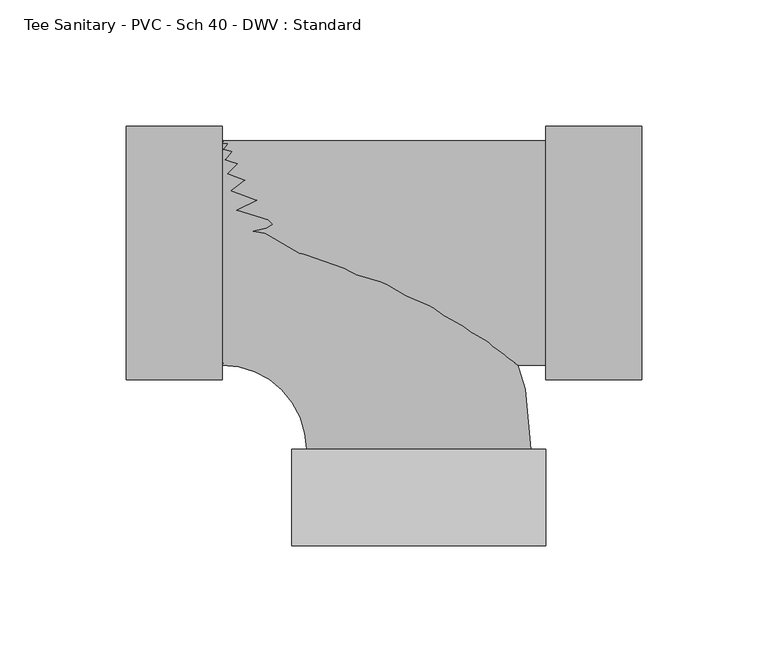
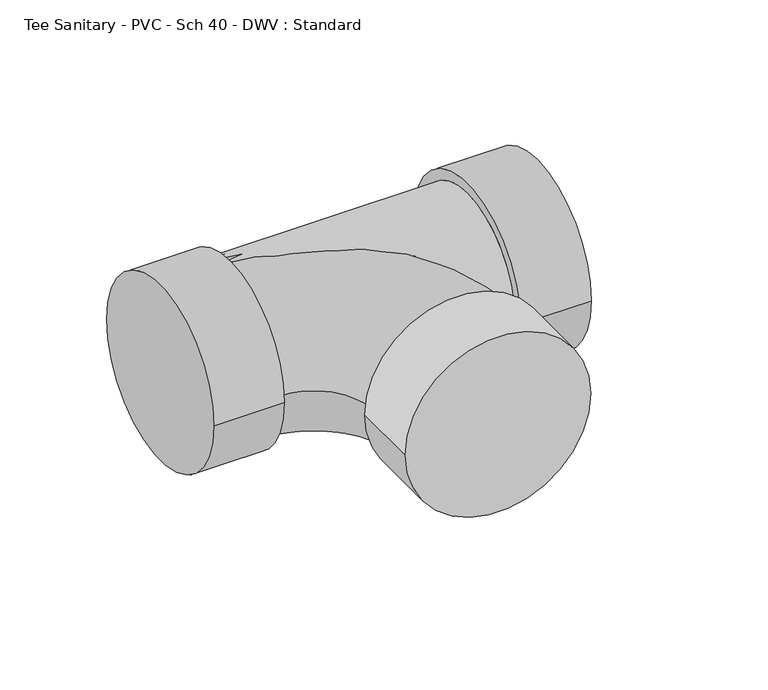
"""IFC4 building model written with IfcOpenShell, lengths in millimetres: pipe fitting geometry, Tee Sanitary - PVC - Sch 40 - DWV : Standard."""

import ifcopenshell
import ifcopenshell.guid

model = None  # the IFC model being written
_history = None  # IfcOwnerHistory: only IFC2X3 demands one
_inside = {}  # id of a spatial element -> (the spatial element, [elements in it])
_under = {}  # id of a project, library or spatial element -> (it, [spatial elements below it])
_declared = {}  # id of a project -> (the project, [libraries it declares])
_typed = {}  # id of a type object -> (the type object, [elements of that type])
_made_of = {}  # id of a material, layer set ... -> (it, [elements and type objects made of it])


def new_model(schema):
    """Start an empty IFC model of exactly this schema.

    Asked for "IFC4X3", IfcOpenShell would pick the latest addendum, in which some entities
    have other attributes; the version numbers below select the first issue.
    IFC2X3 requires an IfcOwnerHistory on every rooted entity: one is made here for all.
    """
    global model, _history
    if schema == "IFC4X3":
        model = ifcopenshell.file(schema_version=(4, 3, 0, 0))
    else:
        model = ifcopenshell.file(schema=schema)
    _inside.clear()
    _under.clear()
    _declared.clear()
    _typed.clear()
    _made_of.clear()
    _history = None
    if model.schema == "IFC2X3":
        org = make("IfcOrganization", Name="unknown")
        user = make(
            "IfcPersonAndOrganization",
            ThePerson=make("IfcPerson", FamilyName="unknown"),
            TheOrganization=org,
        )
        app = make(
            "IfcApplication",
            ApplicationDeveloper=org,
            Version="unknown",
            ApplicationFullName="unknown",
            ApplicationIdentifier="unknown",
        )
        _history = make(
            "IfcOwnerHistory",
            OwningUser=user,
            OwningApplication=app,
            ChangeAction="ADDED",
            CreationDate=0,
        )
    return model


def make(cls, **values):
    """One entity of the class cls with the attributes given. An attribute that is None is left unset."""
    return model.create_entity(
        cls, **{name: value for name, value in values.items() if value is not None}
    )


def rooted(cls, **values):
    """An entity with a GlobalId (a new one), such as an element, a storey or a relation."""
    return make(cls, GlobalId=ifcopenshell.guid.new(), OwnerHistory=_history, **values)


def si_unit(unit_type, name, prefix=None):
    """IfcSIUnit, for example si_unit("LENGTHUNIT", "METRE", prefix="MILLI")."""
    return make("IfcSIUnit", UnitType=unit_type, Prefix=prefix, Name=name)


def assignment(units):
    """IfcUnitAssignment: the units of a project."""
    return None if units is None else make("IfcUnitAssignment", Units=units)


def point(xyz):
    """IfcCartesianPoint."""
    return None if xyz is None else make("IfcCartesianPoint", Coordinates=xyz)


def direction(xyz):
    """IfcDirection."""
    return None if xyz is None else make("IfcDirection", DirectionRatios=xyz)


def frame(location, z_axis=None, x_axis=None):
    """IfcAxis2Placement3D, a coordinate frame: its origin and axes. An axis left out is left unset."""
    return make(
        "IfcAxis2Placement3D",
        Location=point(location),
        Axis=direction(z_axis),
        RefDirection=direction(x_axis),
    )


def origin():
    """The frame at (0, 0, 0) with its axes left unset."""
    return frame((0.0, 0.0, 0.0))


def place(relative_to, where):
    """IfcLocalPlacement: puts the frame where relative to a parent placement (None: the world)."""
    return make(
        "IfcLocalPlacement", PlacementRelTo=relative_to, RelativePlacement=where
    )


def context(
    kind, dimensions, precision=None, world=None, true_north=None, identifier=None
):
    """IfcGeometricRepresentationContext, for example the 3D "Model" context."""
    return make(
        "IfcGeometricRepresentationContext",
        ContextIdentifier=identifier,
        ContextType=kind,
        CoordinateSpaceDimension=dimensions,
        Precision=precision,
        WorldCoordinateSystem=world,
        TrueNorth=true_north,
    )


def project(units=None, contexts=None):
    """IfcProject with its units and contexts."""
    return rooted(
        "IfcProject",
        Name="project",
        RepresentationContexts=contexts,
        UnitsInContext=assignment(units),
    )


def spatial(cls, under=None, at=None, **own):
    """A site, building, storey or space (cls), placed at a placement, below another one or the project."""
    s = rooted(cls, ObjectPlacement=at, **own)
    if under is not None:
        _under.setdefault(under.id(), (under, []))[1].append(s)
    return s


def circle_curve(where, radius):
    """IfcCircle in the frame where."""
    return make("IfcCircle", Position=where, Radius=radius)


def ellipse_curve(where, semi_axis1, semi_axis2):
    """IfcEllipse in the frame where."""
    return make(
        "IfcEllipse", Position=where, SemiAxis1=semi_axis1, SemiAxis2=semi_axis2
    )


def trimmed(basis, trim1, trim2, sense, master):
    """IfcTrimmedCurve: the piece of a basis curve between two trims."""
    return make(
        "IfcTrimmedCurve",
        BasisCurve=basis,
        Trim1=trim1,
        Trim2=trim2,
        SenseAgreement=sense,
        MasterRepresentation=master,
    )


def shape(context_of_items, identifier, shape_type, items):
    """IfcShapeRepresentation: the items that make up one representation, for example the "Body"."""
    return make(
        "IfcShapeRepresentation",
        ContextOfItems=context_of_items,
        RepresentationIdentifier=identifier,
        RepresentationType=shape_type,
        Items=items,
    )


def source(mapping_origin, context_of_items, identifier, shape_type, items):
    """IfcRepresentationMap: a shape defined once, which mapped items show again and again."""
    return make(
        "IfcRepresentationMap",
        MappingOrigin=mapping_origin,
        MappedRepresentation=shape(context_of_items, identifier, shape_type, items),
    )


def transform(
    local_origin,
    x_axis=None,
    y_axis=None,
    z_axis=None,
    scale=None,
    scale2=None,
    scale3=None,
    uniform=True,
):
    """IfcCartesianTransformationOperator3D, or its non-uniform kind. x_axis, y_axis, z_axis: its Axis1, 2, 3."""
    if uniform:
        return make(
            "IfcCartesianTransformationOperator3D",
            Axis1=direction(x_axis),
            Axis2=direction(y_axis),
            LocalOrigin=point(local_origin),
            Scale=scale,
            Axis3=direction(z_axis),
        )
    return make(
        "IfcCartesianTransformationOperator3DnonUniform",
        Axis1=direction(x_axis),
        Axis2=direction(y_axis),
        LocalOrigin=point(local_origin),
        Scale=scale,
        Axis3=direction(z_axis),
        Scale2=scale2,
        Scale3=scale3,
    )


def mapped(mapping_source, mapping_target):
    """IfcMappedItem: shows the shape of a source again, moved by a transform."""
    return make(
        "IfcMappedItem", MappingSource=mapping_source, MappingTarget=mapping_target
    )


def made_of(thing, what):
    """Note that an element or type object is made of a material, layer set ...; save() writes the relation."""
    if what is not None:
        _made_of.setdefault(what.id(), (what, []))[1].append(thing)
    return thing


def element(
    cls,
    number,
    at=None,
    inside=None,
    cuts=None,
    type_object=None,
    material=None,
    context=None,
    identifier="Body",
    shape_type=None,
    held_by="IfcProductDefinitionShape",
    body=None,
    shapes=None,
    **own,
):
    """One element of the class cls, such as IfcWall. Its Tag is "e" and its number.

    at: its placement. inside: the storey or other place that contains it. cuts: it is an
    opening in that element (IfcRelVoidsElement). A single representation is given by context,
    identifier, shape_type and body (its items); several are given by shapes. held_by: the class
    of the entity that holds the representations. save() writes the other relations.
    """
    e = rooted(cls, Tag="e%d" % number, ObjectPlacement=at, **own)
    if body is not None:
        shapes = [shape(context, identifier, shape_type, body)]
    if shapes is not None:
        e.Representation = make(held_by, Representations=shapes)
    if inside is not None:
        _inside.setdefault(inside.id(), (inside, []))[1].append(e)
    if cuts is not None:
        rooted(
            "IfcRelVoidsElement", RelatingBuildingElement=cuts, RelatedOpeningElement=e
        )
    if type_object is not None:
        _typed.setdefault(type_object.id(), (type_object, []))[1].append(e)
    return made_of(e, material)


def aggregate(whole, parts):
    """IfcRelAggregates: a whole, such as a stair, and the parts it consists of."""
    return rooted("IfcRelAggregates", RelatingObject=whole, RelatedObjects=parts)


def save(model, path):
    """Write the relations noted so far, then the file.

    IfcRelAggregates (storeys below a building ...), IfcRelContainedInSpatialStructure (elements
    in a storey), IfcRelDefinesByType, IfcRelAssociatesMaterial and IfcRelDeclares: one each for
    every whole, place, type object, material and project.
    """
    for whole, parts in _under.values():
        aggregate(whole, parts)
    for where, things in _inside.values():
        rooted(
            "IfcRelContainedInSpatialStructure",
            RelatedElements=things,
            RelatingStructure=where,
        )
    for kind, things in _typed.values():
        rooted("IfcRelDefinesByType", RelatedObjects=things, RelatingType=kind)
    for what, things in _made_of.values():
        rooted("IfcRelAssociatesMaterial", RelatedObjects=things, RelatingMaterial=what)
    for by, libraries in _declared.values():
        rooted("IfcRelDeclares", RelatingContext=by, RelatedDefinitions=libraries)
    model.write(path)


def plane_surface(at):
    """IfcPlane: the flat surface through the origin of the frame at, square to its z axis."""
    return make("IfcPlane", Position=at)


def cylinder_surface(at, radius):
    """IfcCylindricalSurface: all points at the distance radius from the z axis of the frame at."""
    return make("IfcCylindricalSurface", Position=at, Radius=radius)


def revolved_surface(curve, axis_point, axis_direction):
    """IfcSurfaceOfRevolution: the curve turned about the line through axis_point along axis_direction."""
    return make(
        "IfcSurfaceOfRevolution",
        SweptCurve=make("IfcArbitraryOpenProfileDef", ProfileType="CURVE", Curve=curve),
        AxisPosition=make("IfcAxis1Placement", Location=point(axis_point), Axis=direction(axis_direction)),
    )


def advanced_brep(points, edges, surfaces, faces):
    """IfcAdvancedBrep: a solid bounded by faces that lie on surfaces and meet in shared edges.

    An edge is (start, end): straight between two places in points (the first is 0);
    or (start, end, curve); or (start, end, curve, False) where it runs against its curve.
    A face is (place in surfaces, loops), or (place, loops, False) where it looks against
    its surface's normal. A loop lists edges by number (the first is 1), with a minus sign
    where the edge is run from its end to its start. The first loop is the outer one.
    """
    corners = [point(p) for p in points]
    vertices = [make("IfcVertexPoint", VertexGeometry=c) for c in corners]
    made = []
    for start, end, *more in edges:
        made.append(
            make(
                "IfcEdgeCurve",
                EdgeStart=vertices[start],
                EdgeEnd=vertices[end],
                EdgeGeometry=more[0] if more else make("IfcPolyline", Points=[corners[start], corners[end]]),
                SameSense=more[1] if len(more) > 1 else True,
            )
        )
    hull = []
    for where, loops, *sense in faces:
        bounds = []
        for j, loop in enumerate(loops):
            ring = [make("IfcOrientedEdge", EdgeElement=made[abs(k) - 1], Orientation=k > 0) for k in loop]
            bounds.append(
                make(
                    "IfcFaceOuterBound" if j == 0 else "IfcFaceBound",
                    Bound=make("IfcEdgeLoop", EdgeList=ring),
                    Orientation=True,
                )
            )
        hull.append(make("IfcAdvancedFace", Bounds=bounds, FaceSurface=surfaces[where], SameSense=sense[0] if sense else True))
    return make("IfcAdvancedBrep", Outer=make("IfcClosedShell", CfsFaces=hull))


def tee_sanitary_pvc_sch_40_dwv_standard_8de014e1(model_context):
    return source(origin(), model_context, "Body", "AdvancedBrep", [
        advanced_brep(
        [(-77.8002, -44.45, 0.0), (-77.8002, 44.45, 0.0), (-44.4415588, -77.8050222, 0.0), (44.4584407, -77.7953769, 0.0), (50.2791743, -115.8947456, 0.0), (-50.2540251, -115.905653, 0.0), (50.2750407, -77.7947459, 0.0), (-50.2581588, -77.8056532, 0.0)],
        [
            (0, 1, circle_curve(frame((-77.8002, 0.0, 0.0), z_axis=(-1.0, 0.0, 0.0), x_axis=(0.0, 1.0, 0.0)), 44.45)),
            (1, 0, circle_curve(frame((-77.8002, 0.0, 0.0), z_axis=(-1.0, 0.0, 0.0), x_axis=(0.0, 1.0, 0.0)), 44.45)),
            (0, 2, circle_curve(frame((-77.8002, -77.8086414, 0.0), z_axis=(0.0, 0.0, -1.0), x_axis=(0.0, 1.0, 0.0)), 33.3586414)),
            (2, 3, circle_curve(frame((0.0084409, -77.8001995, 0.0), z_axis=(-0.00010849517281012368, 0.9999999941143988, 0.0), x_axis=(0.9999999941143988, 0.00010849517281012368, 0.0)), 44.45)),
            (3, 1, circle_curve(frame((-77.8002, -77.8086414, 0.0), z_axis=(0.0, 0.0, 1.0), x_axis=(0.0, 1.0, 0.0)), 122.2586414)),
            (3, 2, circle_curve(frame((0.0084409, -77.8001995, 0.0), z_axis=(-0.00010849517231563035, 0.9999999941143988, 0.0), x_axis=(0.9999999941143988, 0.00010849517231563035, 0.0)), 44.45)),
            (4, 5, circle_curve(frame((0.0125746, -115.9001993, 0.0), z_axis=(0.00010849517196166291, -0.9999999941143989, 0.0), x_axis=(-0.9999999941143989, -0.00010849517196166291, 0.0)), 50.2666)),
            (5, 4, circle_curve(frame((0.0125746, -115.9001993, 0.0), z_axis=(0.00010849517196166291, -0.9999999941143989, 0.0), x_axis=(-0.9999999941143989, -0.00010849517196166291, 0.0)), 50.2666)),
            (6, 7, circle_curve(frame((0.0084409, -77.8001995, 0.0), z_axis=(-0.00010849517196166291, 0.9999999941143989, 0.0), x_axis=(-0.9999999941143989, -0.00010849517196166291, 0.0)), 50.2666)),
            (7, 6, circle_curve(frame((0.0084409, -77.8001995, 0.0), z_axis=(-0.00010849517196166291, 0.9999999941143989, 0.0), x_axis=(-0.9999999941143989, -0.00010849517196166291, 0.0)), 50.2666)),
            (4, 6),
            (7, 5),
        ],
        [
            plane_surface(frame((-77.8002, 0.0, 0.0), z_axis=(-1.0, 0.0, 0.0), x_axis=(0.0, 0.0, 1.0))),
            revolved_surface(trimmed(ellipse_curve(frame((-77.8002, 0.0, 0.0), z_axis=(-1.0, 0.0, 0.0), x_axis=(0.0, 1.0, 0.0)), 44.45, 44.45), [point((-77.8002, -44.45, 0.0))], [point((-77.8002, 44.45, 0.0))], True, "CARTESIAN"), (-77.8002, -77.8086414, 0.0), (0.0, 0.0, -1.0)),
            revolved_surface(trimmed(ellipse_curve(frame((-77.8002, 0.0, 0.0), z_axis=(-1.0, 0.0, 0.0), x_axis=(0.0, 1.0, 0.0)), 44.45, 44.45), [point((-77.8002, 44.45, 0.0))], [point((-77.8002, -44.45, 0.0))], True, "CARTESIAN"), (-77.8002, -77.8086414, 0.0), (0.0, 0.0, -1.0)),
            plane_surface(frame((0.0125746, -115.9001993, 0.0), z_axis=(0.00010849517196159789, -0.9999999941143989, 0.0), x_axis=(0.0, 0.0, 1.0))),
            plane_surface(frame((0.0084409, -77.8001995, 0.0), z_axis=(-0.00010849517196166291, 0.9999999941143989, 0.0), x_axis=(0.0, 0.0, 1.0))),
            cylinder_surface(frame((0.0125746, -115.9001993, 0.0), z_axis=(0.00010849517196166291, -0.9999999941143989, 0.0), x_axis=(-0.9999999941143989, -0.00010849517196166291, 0.0)), 50.2666),
        ],
        [
            (0, [[1, 2]]),
            (1, [[-1, 3, 4, 5]]),
            (2, [[-2, -5, 6, -3]]),
            (3, [[7, 8]]),
            (4, [[9, 10], [-4, -6]]),
            (5, [[-7, 11, -10, 12]]),
            (5, [[-8, -12, -9, -11]]),
        ],
    ),
        advanced_brep(
        [(-77.8002, -44.45, 0.0), (50.2750407, -44.45, 0.0), (50.2750407, 44.45, 0.0), (-77.8002, 44.45, 0.0), (50.2750407, -50.2666, 0.0), (50.2750407, 50.2666, 0.0), (88.3750407, -50.2666, 0.0), (88.3750407, 50.2666, 0.0), (-115.9002, -50.2666, 0.0), (-115.9002, 50.2666, 0.0), (-77.8002, -50.2666, 0.0), (-77.8002, 50.2666, 0.0)],
        [
            (0, 1),
            (1, 2, circle_curve(frame((50.2750407, 0.0, 0.0), z_axis=(-1.0, 0.0, 0.0), x_axis=(0.0, 1.0, 0.0)), 44.45)),
            (2, 3),
            (3, 0, circle_curve(frame((-77.8002, 0.0, 0.0), z_axis=(1.0, 0.0, 0.0), x_axis=(0.0, 1.0, 0.0)), 44.45)),
            (0, 3, circle_curve(frame((-77.8002, 0.0, 0.0), z_axis=(1.0, 0.0, 0.0), x_axis=(0.0, 1.0, 0.0)), 44.45)),
            (2, 1, circle_curve(frame((50.2750407, 0.0, 0.0), z_axis=(-1.0, 0.0, 0.0), x_axis=(0.0, 1.0, 0.0)), 44.45)),
            (4, 5, circle_curve(frame((50.2750407, 0.0, 0.0), z_axis=(-1.0, 0.0, 0.0), x_axis=(0.0, 1.0, 0.0)), 50.2666)),
            (5, 4, circle_curve(frame((50.2750407, 0.0, 0.0), z_axis=(-1.0, 0.0, 0.0), x_axis=(0.0, 1.0, 0.0)), 50.2666)),
            (6, 7, circle_curve(frame((88.3750407, 0.0, 0.0), z_axis=(1.0, 0.0, 0.0), x_axis=(0.0, 1.0, 0.0)), 50.2666)),
            (7, 6, circle_curve(frame((88.3750407, 0.0, 0.0), z_axis=(1.0, 0.0, 0.0), x_axis=(0.0, 1.0, 0.0)), 50.2666)),
            (4, 6),
            (7, 5),
            (8, 9, circle_curve(frame((-115.9002, 0.0, 0.0), z_axis=(-1.0, 0.0, 0.0), x_axis=(0.0, 1.0, 0.0)), 50.2666)),
            (9, 8, circle_curve(frame((-115.9002, 0.0, 0.0), z_axis=(-1.0, 0.0, 0.0), x_axis=(0.0, 1.0, 0.0)), 50.2666)),
            (10, 11, circle_curve(frame((-77.8002, 0.0, 0.0), z_axis=(1.0, 0.0, 0.0), x_axis=(0.0, 1.0, 0.0)), 50.2666)),
            (11, 10, circle_curve(frame((-77.8002, 0.0, 0.0), z_axis=(1.0, 0.0, 0.0), x_axis=(0.0, 1.0, 0.0)), 50.2666)),
            (8, 10),
            (11, 9),
        ],
        [
            cylinder_surface(frame((-77.8002, 0.0, 0.0), z_axis=(-1.0, 0.0, 0.0), x_axis=(0.0, 1.0, 0.0)), 44.45),
            plane_surface(frame((50.2750407, 0.0, 0.0), z_axis=(-1.0, 0.0, 0.0), x_axis=(0.0, 0.0, 1.0))),
            plane_surface(frame((88.3750407, 0.0, 0.0), z_axis=(1.0, 0.0, 0.0), x_axis=(0.0, 0.0, 1.0))),
            cylinder_surface(frame((50.2750407, 0.0, 0.0), z_axis=(-1.0, 0.0, 0.0), x_axis=(0.0, 1.0, 0.0)), 50.2666),
            plane_surface(frame((-115.9002, 0.0, 0.0), z_axis=(-1.0, 0.0, 0.0), x_axis=(0.0, 0.0, 1.0))),
            plane_surface(frame((-77.8002, 0.0, 0.0), z_axis=(1.0, 0.0, 0.0), x_axis=(0.0, 0.0, 1.0))),
            cylinder_surface(frame((-115.9002, 0.0, 0.0), z_axis=(-1.0, 0.0, 0.0), x_axis=(0.0, 1.0, 0.0)), 50.2666),
        ],
        [
            (0, [[1, 2, 3, 4]]),
            (0, [[-1, 5, -3, 6]]),
            (1, [[7, 8], [-2, -6]]),
            (2, [[9, 10]]),
            (3, [[-7, 11, -10, 12]]),
            (3, [[-8, -12, -9, -11]]),
            (4, [[13, 14]]),
            (5, [[15, 16], [-4, -5]]),
            (6, [[-13, 17, -16, 18]]),
            (6, [[-14, -18, -15, -17]]),
        ],
    ),
    ])


if __name__ == "__main__":
    model = new_model("IFC4")
    model_context = context("Model", 3, world=origin())
    ifc_project = project(units=[si_unit("LENGTHUNIT", "METRE", prefix="MILLI")], contexts=[model_context])
    site = spatial("IfcSite", under=ifc_project)
    building = spatial("IfcBuilding", under=site)
    placement = place(None, origin())
    tee_sanitary_pvc_sch_40_dwv_standard_shape = tee_sanitary_pvc_sch_40_dwv_standard_8de014e1(model_context)
    element("IfcPipeFitting", 1, ObjectType="Tee Sanitary - PVC - Sch 40 - DWV : Standard", at=placement, inside=building, context=model_context, shape_type="MappedRepresentation", body=[
        mapped(tee_sanitary_pvc_sch_40_dwv_standard_shape, transform((0.0, 0.0, 0.0), x_axis=(1.0, 0.0, 0.0), y_axis=(0.0, 1.0, 0.0), z_axis=(0.0, 0.0, 1.0))),
    ])
    save(model, "model.ifc")
